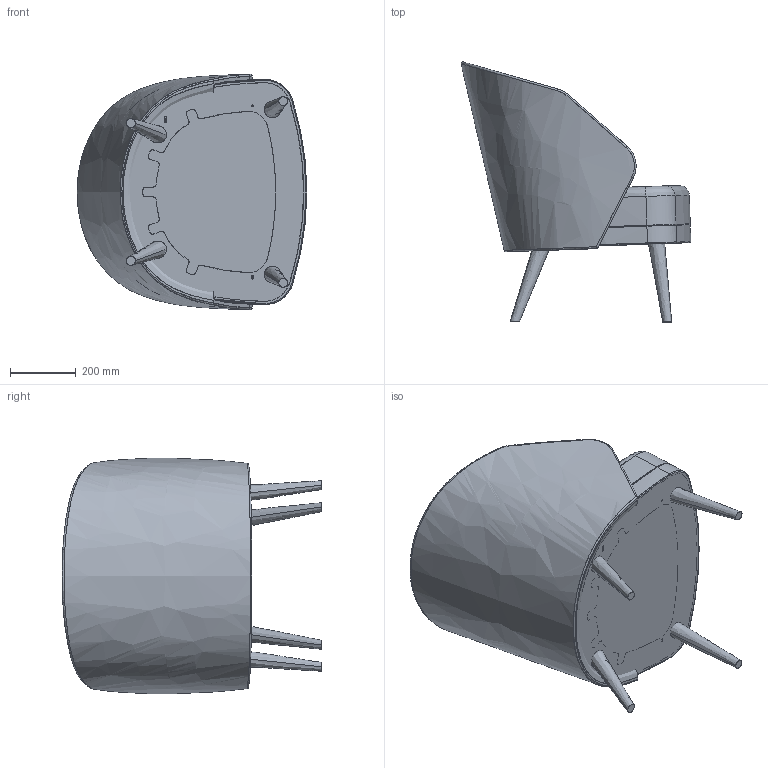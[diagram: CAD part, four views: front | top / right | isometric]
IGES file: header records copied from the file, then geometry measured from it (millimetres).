
Start section: SolidWorks IGES file using analytic representation for surfaces
Global section: file name: C:\Users\emanuel\Documents\TRABALHO\DESENHO TÉCNICO\JMS\Catalogo ALLseating 2016\POLTRONAS\3Ds\Poltrona_A940.IGS; native system: SolidWorks 2017; preprocessor: SolidWorks 2017; author: Emanuel; date: 170613.134726; units: millimetre
Bounding box: 700.28 x 792.22 x 717.8 mm (x, y, z)
Surface area: 5764061.6 mm2 (no closed solid volume)
Topology: 0 solids, 0 shells, 1142 faces, 18887 edges, 18823 vertices
Faces by surface type: bspline 581, revolution 561
